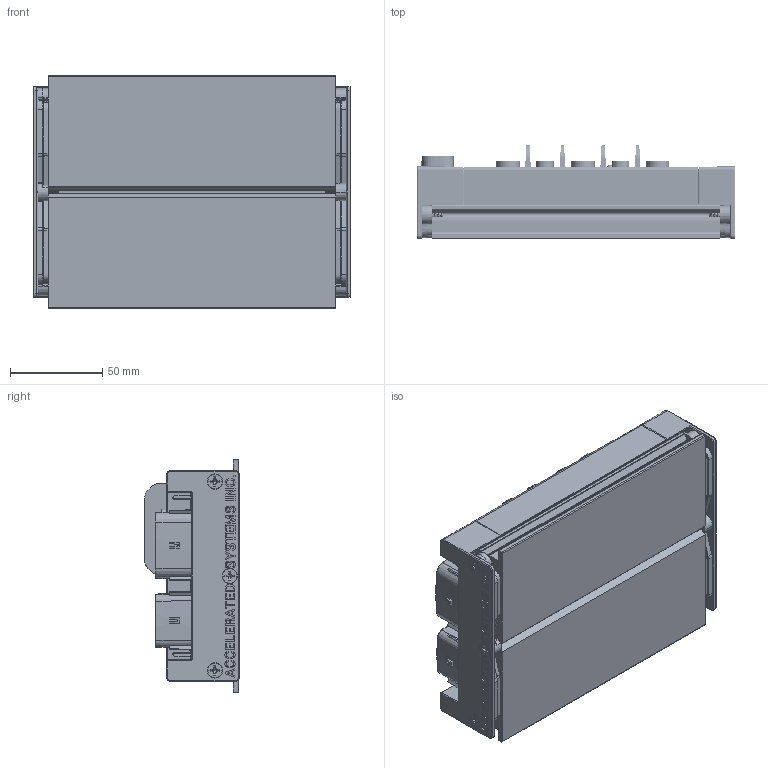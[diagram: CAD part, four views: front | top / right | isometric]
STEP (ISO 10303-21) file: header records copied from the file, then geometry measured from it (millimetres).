
FILE_DESCRIPTION (( 'STEP AP214' ), '1' );
FILE_NAME ('06-000789 - A - BAC Cd 4000 Interface.STEP', '2018-11-29T19:48:05', ( '' ), ( '' ), 'SwSTEP 2.0', 'SolidWorks 2018', '' );
FILE_SCHEMA (( 'AUTOMOTIVE_DESIGN' ));
Length unit declared in the file: millimetre
Products named in the file (14): 757571181_16-PIN; 2017-07-28 bac8000 extrusion_20-001258-4A; 2018-05-04 light pipe for controller_80-000577; 757571181_6-PIN; 16-000115; 20-000667_20-001229; 20-001173_20-001295; 2017-12-06 bac4000 potting cover_20-001297; 06-000789 - A - BAC Cd 4000 Interface; 20-000662 - BAC1000 Power post_20-000662; 20-001177_20-001282; 2018-07-11 90273A146_ZINC-PLATED STL FLAT HEAD PHIL MACHINE SCREW_80-000608; 20-001172_20-001294; 10-000698_power board only
Assembly tree (22 placements, depth 4):
  06-000789 - A - BAC Cd 4000 Interface
    2017-07-28 bac8000 extrusion_20-001258-4A
    20-001172_20-001294
    20-001173_20-001295
    10-000698_power board only
      16-000115
        20-000667_20-001229  x3
        20-000662 - BAC1000 Power post_20-000662  x2
        757571181_6-PIN
        757571181_16-PIN
    2017-12-06 bac4000 potting cover_20-001297
    20-001177_20-001282  x2
    2018-05-04 light pipe for controller_80-000577
    2018-07-11 90273A146_ZINC-PLATED STL FLAT HEAD PHIL MACHINE SCREW_80-000608  x6
Bounding box: 172.52 x 51.3 x 126 mm (x, y, z)
Volume: 326614.2 mm3; surface area: 182690.1 mm2
Topology: 20 solids, 20 shells, 5711 faces, 16278 edges, 10940 vertices
Faces by surface type: plane 3852, cylinder 740, bspline 702, cone 331, torus 82, sphere 4
Entity records: 234222 total; most frequent: CARTESIAN_POINT 107567, ORIENTED_EDGE 28356, DIRECTION 22151, EDGE_CURVE 14178, VECTOR 11011, LINE 11011, VERTEX_POINT 9553, AXIS2_PLACEMENT_3D 5570
